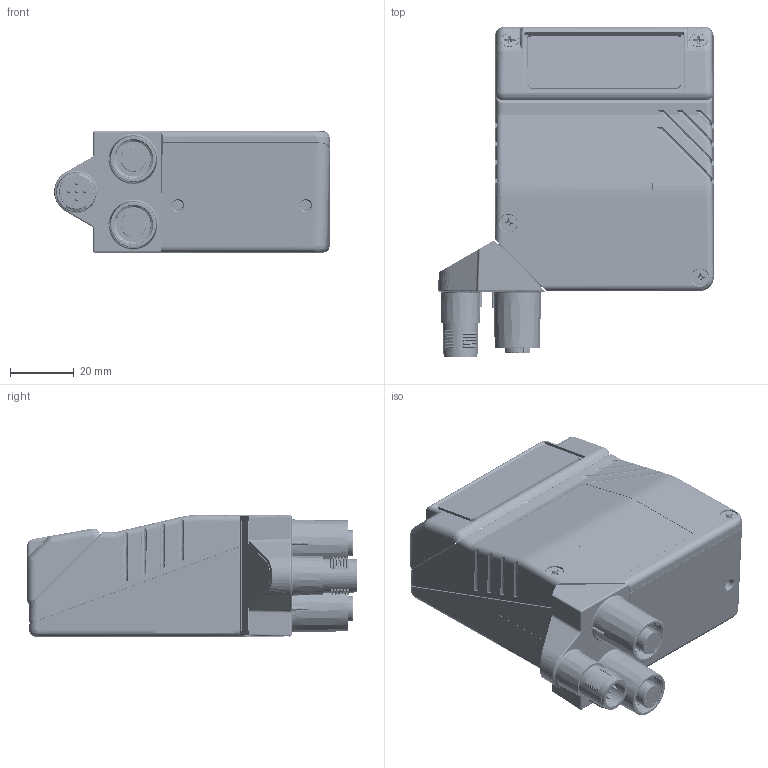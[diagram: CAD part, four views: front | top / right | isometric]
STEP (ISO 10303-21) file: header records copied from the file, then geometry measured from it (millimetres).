
FILE_DESCRIPTION(/* description */ (''),/* implementation_level */ '2;1');
FILE_NAME(/* name */ 'DS2X00+GFC2000.stp',/* time_stamp */ '2014-12-01T10:51:01+01:00',/* author */ (''),/* organization */ (''),/* preprocessor_version */ 'ST-DEVELOPER v11',/* originating_system */ 'SIEMENS PLM Software NX 7.5',/* authorisation */ '');
FILE_SCHEMA (('CONFIG_CONTROL_DESIGN'));
Products named in the file (1): sciaB716wbna
Bounding box: 86.15 x 103.25 x 38.09 mm (x, y, z)
Volume: 59726 mm3; surface area: 65087.5 mm2
Topology: 123 solids, 124 shells, 5566 faces, 15830 edges, 11112 vertices
Faces by surface type: plane 3518, cylinder 878, bspline 649, extrusion 193, cone 154, torus 89, sphere 85
Full cylindrical faces by diameter (mm): 0.6 x16, 0.8 x10, 1 x10, 1.45 x10, 2.05 x4, 2.1 x2, 2.4 x2, 2.5 x12, 2.874 x2, 3 x2, 3.2 x8, 3.3 x4, 5.5 x2, 5.6 x2, 5.8 x2, 8 x2, 8.3 x1, 9.3 x1, 9.4 x4, 9.5 x1, 9.6 x2, 9.9 x2, 10.4 x1, 10.7 x2, 10.8 x1, 10.9 x10, 12.3 x1, 13.8 x1, 14 x2, 15 x1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
Entity records: 224299 total; most frequent: CARTESIAN_POINT 94643, ORIENTED_EDGE 29856, DIRECTION 20967, EDGE_CURVE 14928, VERTEX_POINT 10503, VECTOR 7299, LINE 7106, AXIS2_PLACEMENT_3D 6834
